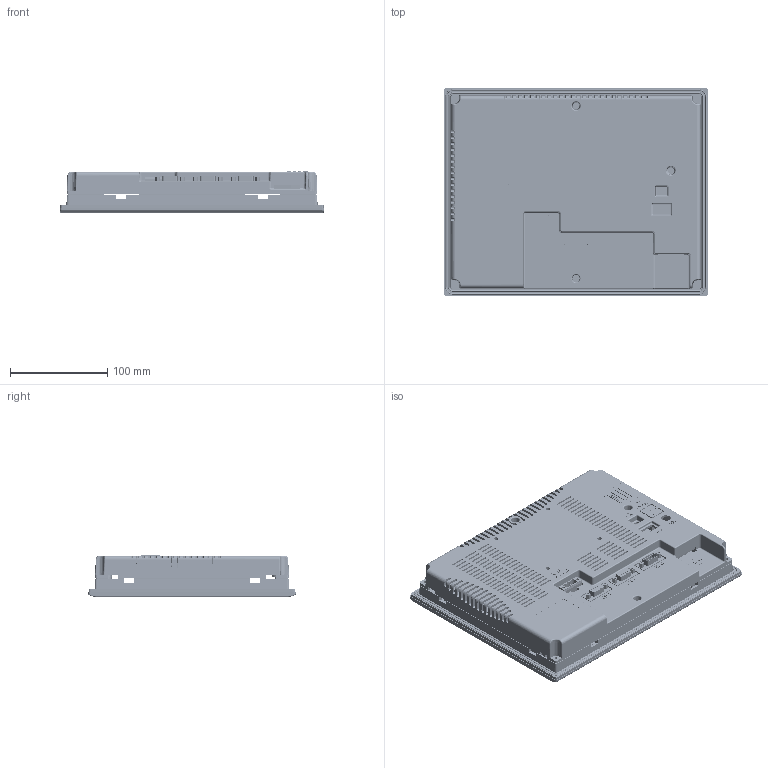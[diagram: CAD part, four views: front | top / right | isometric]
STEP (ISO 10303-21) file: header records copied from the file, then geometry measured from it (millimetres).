
FILE_DESCRIPTION((''),'2;1');
FILE_NAME('Z:\黃世程\4_可提供給客戶3D檔案\1_3D\EC210_3D.stp','2014-03-18T13:42:14',('11254'),(''),'Autodesk Inventor 2008','Autodesk Inventor 2008','');
FILE_SCHEMA(('AUTOMOTIVE_DESIGN { 1 0 10303 214 1 1 1 1 }'));
Length unit declared in the file: millimetre
Products named in the file (1): EC210_3D
Bounding box: 271 x 213 x 42.9 mm (x, y, z)
Volume: 577910.9 mm3; surface area: 403596.7 mm2
Topology: 1 solids, 1 shells, 19526 faces, 57293 edges, 38086 vertices
Faces by surface type: plane 18025, cylinder 1056, bspline 393, cone 31, torus 15, sphere 6
Full cylindrical faces by diameter (mm): 0.36 x5, 0.4 x7, 0.5 x12, 0.508 x2, 0.55 x4, 0.772 x1, 0.8 x5, 0.9 x8, 1 x81, 2 x9, 2.459 x1, 3 x8, 3.1 x6, 3.2 x6, 3.5 x10, 4 x10, 4.5 x1, 5 x9, 6 x1, 9 x4, 9.8 x1, 13 x2
Entity records: 642484 total; most frequent: CARTESIAN_POINT 123511, ORIENTED_EDGE 114064, DIRECTION 97139, EDGE_CURVE 57032, VECTOR 53833, LINE 53833, VERTEX_POINT 38061, AXIS2_PLACEMENT_3D 21653
